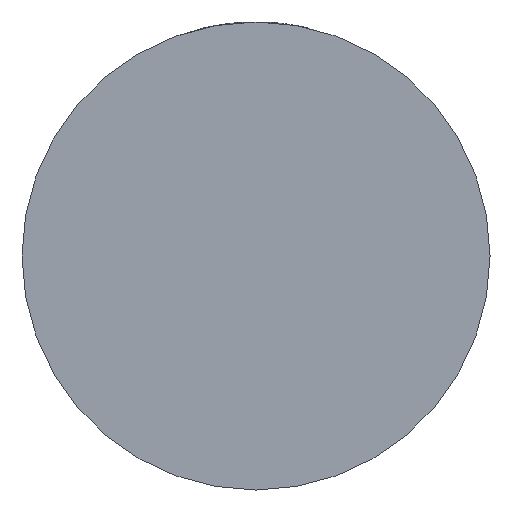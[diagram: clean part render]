
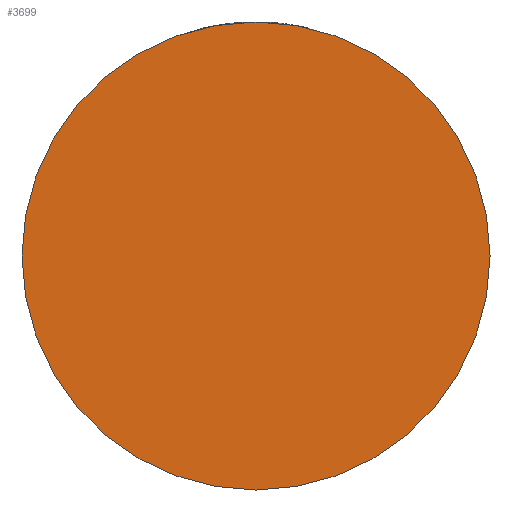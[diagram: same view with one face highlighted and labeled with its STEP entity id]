
A CAD part, front view. The second image highlights one B-rep face of the part: STEP entity #3699.
In plain terms, the highlighted planar face has unit normal (0, -1, 0).
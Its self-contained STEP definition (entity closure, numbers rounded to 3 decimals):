
#17 = CARTESIAN_POINT ( 'NONE',  ( 0., -28., 0. ) ) ;
#119 = DIRECTION ( 'NONE',  ( 0., -1., 0. ) ) ;
#282 = DIRECTION ( 'NONE',  ( 1., 0., 0. ) ) ;
#398 = CARTESIAN_POINT ( 'NONE',  ( 40., -28., 0. ) ) ;
#655 = EDGE_CURVE ( 'NONE', #1911, #3586, #3881, .T. ) ;
#1044 = DIRECTION ( 'NONE',  ( 1., 0., 0. ) ) ;
#1515 = ORIENTED_EDGE ( 'NONE', *, *, #655, .T. ) ;
#1732 = CIRCLE ( 'NONE', #2946, 40. ) ;
#1736 = EDGE_CURVE ( 'NONE', #3586, #1911, #1732, .T. ) ;
#1803 = PLANE ( 'NONE',  #3308 ) ;
#1855 = ORIENTED_EDGE ( 'NONE', *, *, #1736, .T. ) ;
#1911 = VERTEX_POINT ( 'NONE', #398 ) ;
#1942 = AXIS2_PLACEMENT_3D ( 'NONE', #2064, #4359, #1044 ) ;
#2064 = CARTESIAN_POINT ( 'NONE',  ( 0., -28., 0. ) ) ;
#2763 = CARTESIAN_POINT ( 'NONE',  ( -40., -28., 0. ) ) ;
#2829 = DIRECTION ( 'NONE',  ( 1., 0., 0. ) ) ;
#2946 = AXIS2_PLACEMENT_3D ( 'NONE', #17, #3025, #282 ) ;
#3025 = DIRECTION ( 'NONE',  ( 0., -1., 0. ) ) ;
#3161 = CARTESIAN_POINT ( 'NONE',  ( 0., -28., 0. ) ) ;
#3308 = AXIS2_PLACEMENT_3D ( 'NONE', #3161, #119, #2829 ) ;
#3501 = FACE_OUTER_BOUND ( 'NONE', #3968, .T. ) ;
#3586 = VERTEX_POINT ( 'NONE', #2763 ) ;
#3699 = ADVANCED_FACE ( 'NONE', ( #3501 ), #1803, .T. ) ;
#3881 = CIRCLE ( 'NONE', #1942, 40. ) ;
#3968 = EDGE_LOOP ( 'NONE', ( #1855, #1515 ) ) ;
#4359 = DIRECTION ( 'NONE',  ( 0., -1., 0. ) ) ;
